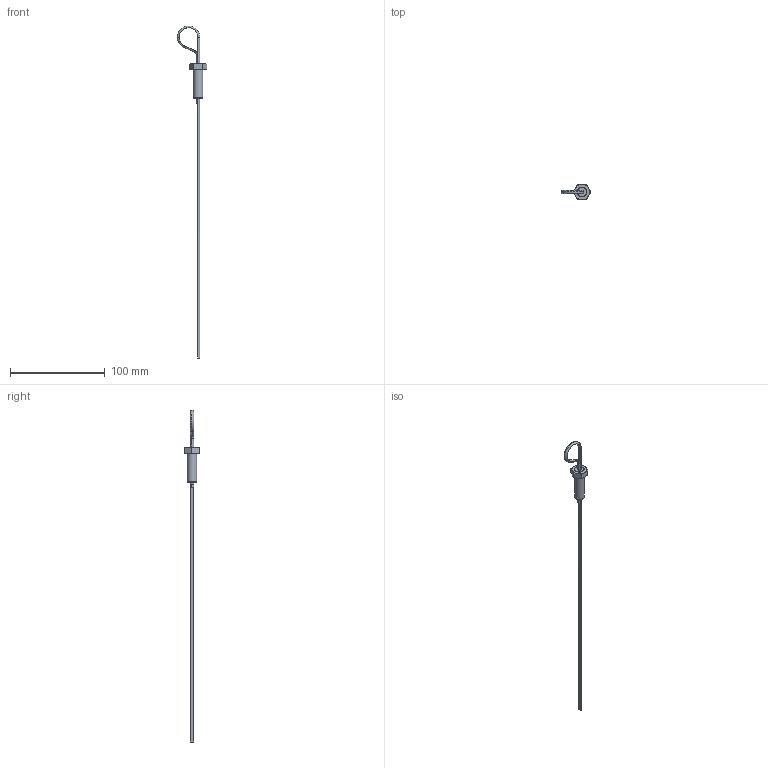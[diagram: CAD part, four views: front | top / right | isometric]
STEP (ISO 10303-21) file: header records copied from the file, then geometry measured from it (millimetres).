
FILE_DESCRIPTION((''),'2;1');
FILE_NAME('U:\Users\a.heinl\12172400.stp','2013-05-22T14:50:53',( 'User'),('SDRC'),'I-DEAS Master Series 9','UNIX','Yes');
FILE_SCHEMA(('AUTOMOTIVE_DESIGN { 1 0 10303 214 1 1 1 1 }'));
Length unit declared in the file: millimetre
Products named in the file (1): 12172400(258168)
Bounding box: 31.1 x 16.02 x 349.49 mm (x, y, z)
Volume: 5828.5 mm3; surface area: 5316.3 mm2
Topology: 1 solids, 1 shells, 47 faces, 113 edges, 79 vertices
Faces by surface type: bspline 47
Entity records: 1557 total; most frequent: CARTESIAN_POINT 873, ORIENTED_EDGE 208, EDGE_CURVE 104, VERTEX_POINT 64, EDGE_LOOP 54, FACE_OUTER_BOUND 47, ADVANCED_FACE 47, QUASI_UNIFORM_CURVE 29
